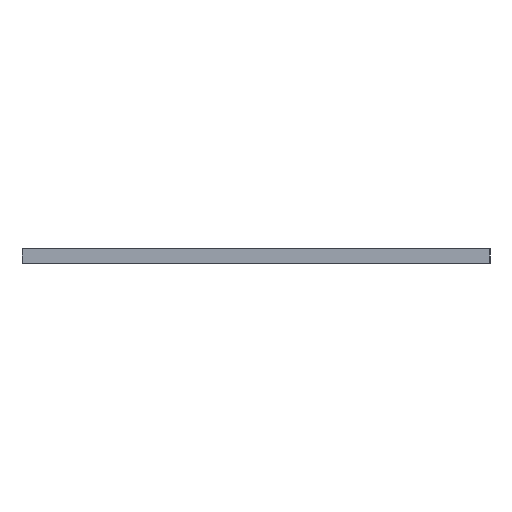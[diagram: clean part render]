
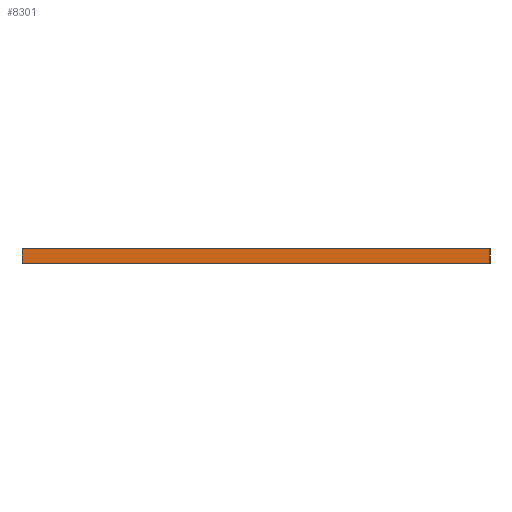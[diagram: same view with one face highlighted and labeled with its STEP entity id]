
A CAD part, left-side view. The second image highlights one B-rep face of the part: STEP entity #8301.
In plain terms, the highlighted planar face has unit normal (-1, 0, 0).
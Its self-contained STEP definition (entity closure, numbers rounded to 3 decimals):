
#61 = EDGE_CURVE('',#62,#64,#66,.T.);
#62 = VERTEX_POINT('',#63);
#63 = CARTESIAN_POINT('',(-180.,-130.,0.));
#64 = VERTEX_POINT('',#65);
#65 = CARTESIAN_POINT('',(-180.,-130.,8.));
#66 = LINE('',#67,#68);
#67 = CARTESIAN_POINT('',(-180.,-130.,0.));
#68 = VECTOR('',#69,1.);
#69 = DIRECTION('',(0.,0.,1.));
#94 = VERTEX_POINT('',#95);
#95 = CARTESIAN_POINT('',(-180.,130.,8.));
#101 = EDGE_CURVE('',#102,#94,#104,.T.);
#102 = VERTEX_POINT('',#103);
#103 = CARTESIAN_POINT('',(-180.,130.,0.));
#104 = LINE('',#105,#106);
#105 = CARTESIAN_POINT('',(-180.,130.,0.));
#106 = VECTOR('',#107,1.);
#107 = DIRECTION('',(0.,0.,1.));
#125 = EDGE_CURVE('',#102,#62,#126,.T.);
#126 = LINE('',#127,#128);
#127 = CARTESIAN_POINT('',(-180.,130.,0.));
#128 = VECTOR('',#129,1.);
#129 = DIRECTION('',(0.,-1.,0.));
#850 = EDGE_CURVE('',#94,#64,#851,.T.);
#851 = LINE('',#852,#853);
#852 = CARTESIAN_POINT('',(-180.,130.,8.));
#853 = VECTOR('',#854,1.);
#854 = DIRECTION('',(0.,-1.,0.));
#8301 = ADVANCED_FACE('',(#8302),#8308,.F.);
#8302 = FACE_BOUND('',#8303,.F.);
#8303 = EDGE_LOOP('',(#8304,#8305,#8306,#8307));
#8304 = ORIENTED_EDGE('',*,*,#101,.T.);
#8305 = ORIENTED_EDGE('',*,*,#850,.T.);
#8306 = ORIENTED_EDGE('',*,*,#61,.F.);
#8307 = ORIENTED_EDGE('',*,*,#125,.F.);
#8308 = PLANE('',#8309);
#8309 = AXIS2_PLACEMENT_3D('',#8310,#8311,#8312);
#8310 = CARTESIAN_POINT('',(-180.,130.,0.));
#8311 = DIRECTION('',(1.,0.,0.));
#8312 = DIRECTION('',(0.,-1.,0.));
